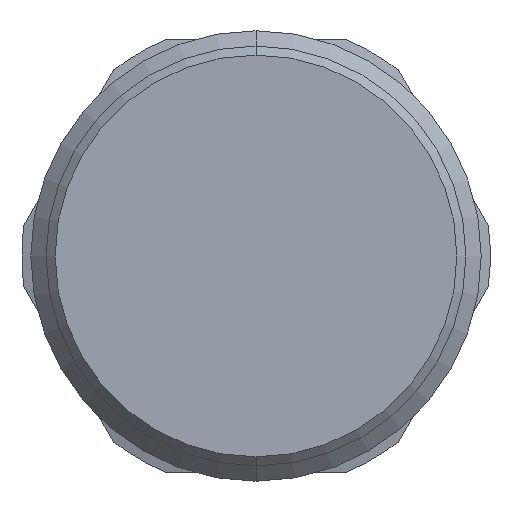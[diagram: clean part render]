
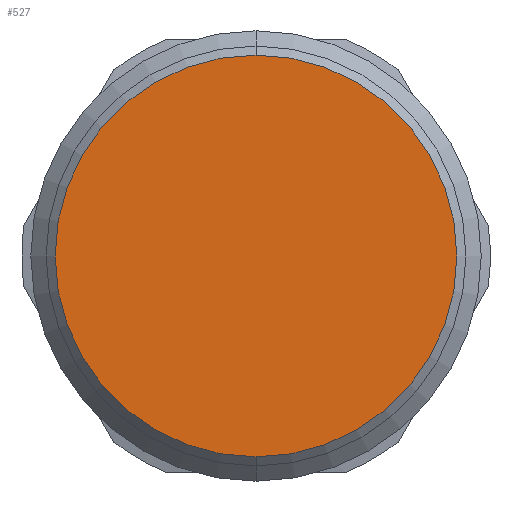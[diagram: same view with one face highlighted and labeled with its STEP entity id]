
A CAD part, front view. The second image highlights one B-rep face of the part: STEP entity #527.
In plain terms, the highlighted planar face has unit normal (0, -1, 0).
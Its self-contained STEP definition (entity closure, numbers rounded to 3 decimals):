
#502=CARTESIAN_POINT('',(0.0,-59.5,-11.15));
#503=VERTEX_POINT('',#502);
#504=CARTESIAN_POINT('',(0.0,-59.5,11.15));
#505=VERTEX_POINT('',#504);
#506=CARTESIAN_POINT('',(0.0,-59.5,0.0));
#507=DIRECTION('',(0.0,-1.0,0.0));
#508=DIRECTION('',(0.0,0.0,-1.0));
#509=AXIS2_PLACEMENT_3D('',#506,#507,#508);
#510=CIRCLE('',#509,11.15);
#511=EDGE_CURVE('no 2244',#503,#505,#510,.T.);
#512=ORIENTED_EDGE('',*,*,#511,.T.);
#513=CARTESIAN_POINT('',(0.0,-59.5,0.0));
#514=DIRECTION('',(0.0,-1.0,0.0));
#515=DIRECTION('',(0.0,0.0,-1.0));
#516=AXIS2_PLACEMENT_3D('',#513,#514,#515);
#517=CIRCLE('',#516,11.15);
#518=EDGE_CURVE('no 2248',#505,#503,#517,.T.);
#519=ORIENTED_EDGE('',*,*,#518,.T.);
#520=EDGE_LOOP('',(#512,#519));
#521=FACE_OUTER_BOUND('',#520,.T.);
#522=CARTESIAN_POINT('',(0.0,-59.5,0.0));
#523=DIRECTION('',(0.0,-1.0,0.0));
#524=DIRECTION('',(0.0,0.0,-1.0));
#525=AXIS2_PLACEMENT_3D('',#522,#523,#524);
#526=PLANE('',#525);
#527=ADVANCED_FACE('no 2235',(#521),#526,.T.);
